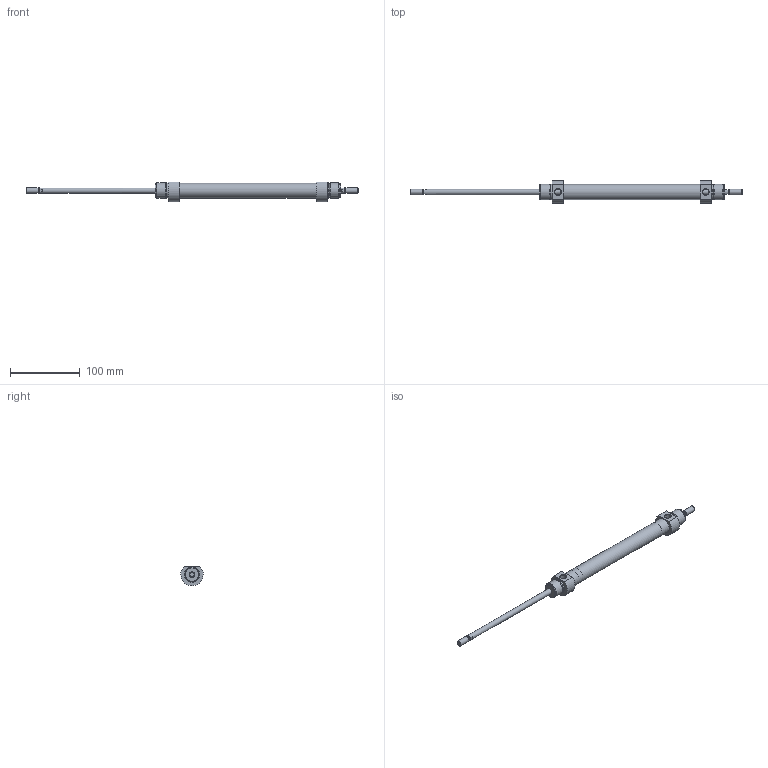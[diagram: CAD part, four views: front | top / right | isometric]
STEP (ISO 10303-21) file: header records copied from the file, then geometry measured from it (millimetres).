
FILE_DESCRIPTION( ( 'STEP AP203' ), '1' );
FILE_NAME( '//expscmdclustefs.cadenas.external/client_exchange/iodir/jobs/output/wkb68459376_no0/STEP/M101-020-0160--__0__2_03.stp', ' ', ( ' ' ), ( ' ' ), 'PSStep 15.0.47', 'PARTsolutions', ' ' );
FILE_SCHEMA( ( 'CONFIG_CONTROL_DESIGN' ) );
Length unit declared in the file: millimetre
Products named in the file (3): M101-020-0160-- [0]; HI_M101-020-0160---[0]-z; HI_M101-020-0160---[0]-k
Assembly tree (2 placements, depth 2):
  M101-020-0160-- [0]
    HI_M101-020-0160---[0]-z
    HI_M101-020-0160---[0]-k
Bounding box: 476 x 32 x 28 mm (x, y, z)
Volume: 76909 mm3; surface area: 47947.4 mm2
Topology: 2 solids, 2 shells, 65 faces, 129 edges, 80 vertices
Faces by surface type: plane 26, cylinder 23, cone 14, torus 2
Full cylindrical faces by diameter (mm): 6.466 x2, 8 x6, 8.566 x2, 20 x2, 20.16 x4, 21.6 x1, 22 x4
Entity records: 1702 total; most frequent: CARTESIAN_POINT 356, DIRECTION 280, ORIENTED_EDGE 184, AXIS2_PLACEMENT_3D 128, EDGE_LOOP 116, EDGE_CURVE 92, FACE_OUTER_BOUND 88, VERTEX_POINT 76
